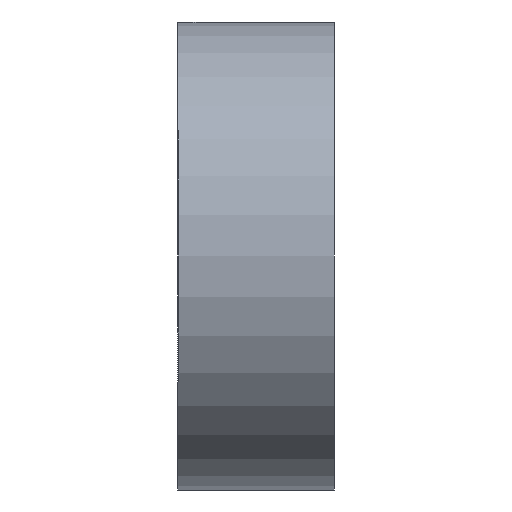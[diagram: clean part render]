
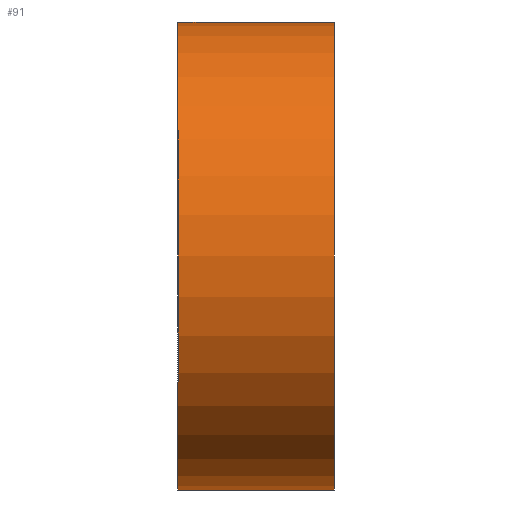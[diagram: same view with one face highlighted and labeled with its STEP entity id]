
A CAD part, front view. The second image highlights one B-rep face of the part: STEP entity #91.
In plain terms, the highlighted cylindrical face has radius 15 mm (diameter 30 mm), a partial arc.
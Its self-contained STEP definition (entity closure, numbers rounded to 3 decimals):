
#52=CARTESIAN_POINT('Axis2P3D Location',(5.,352.611,315.781)) ;
#57=CARTESIAN_POINT('Line Origine',(5.,352.611,330.781)) ;
#61=CARTESIAN_POINT('Vertex',(0.,352.611,330.781)) ;
#63=CARTESIAN_POINT('Vertex',(10.,352.611,330.781)) ;
#66=CARTESIAN_POINT('Axis2P3D Location',(0.,352.611,315.781)) ;
#70=CARTESIAN_POINT('Vertex',(0.,352.611,300.781)) ;
#73=CARTESIAN_POINT('Line Origine',(5.,352.611,300.781)) ;
#77=CARTESIAN_POINT('Vertex',(10.,352.611,300.781)) ;
#80=CARTESIAN_POINT('Axis2P3D Location',(10.,352.611,315.781)) ;
#53=DIRECTION('Axis2P3D Direction',(1.,0.,0.)) ;
#54=DIRECTION('Axis2P3D XDirection',(0.,0.,1.)) ;
#58=DIRECTION('Vector Direction',(1.,0.,0.)) ;
#67=DIRECTION('Axis2P3D Direction',(1.,0.,0.)) ;
#74=DIRECTION('Vector Direction',(1.,0.,0.)) ;
#81=DIRECTION('Axis2P3D Direction',(1.,0.,0.)) ;
#55=AXIS2_PLACEMENT_3D('Cylinder Axis2P3D',#52,#53,#54) ;
#68=AXIS2_PLACEMENT_3D('Circle Axis2P3D',#66,#67,$) ;
#82=AXIS2_PLACEMENT_3D('Circle Axis2P3D',#80,#81,$) ;
#86=ORIENTED_EDGE('',*,*,#65,.F.) ;
#87=ORIENTED_EDGE('',*,*,#72,.T.) ;
#88=ORIENTED_EDGE('',*,*,#79,.T.) ;
#89=ORIENTED_EDGE('',*,*,#84,.F.) ;
#59=VECTOR('Line Direction',#58,1.) ;
#75=VECTOR('Line Direction',#74,1.) ;
#91=ADVANCED_FACE('PartBody',(#90),#56,.T.) ;
#69=CIRCLE('generated circle',#68,15.) ;
#83=CIRCLE('generated circle',#82,15.) ;
#56=CYLINDRICAL_SURFACE('generated cylinder',#55,15.) ;
#65=EDGE_CURVE('',#62,#64,#60,.T.) ;
#72=EDGE_CURVE('',#62,#71,#69,.T.) ;
#79=EDGE_CURVE('',#71,#78,#76,.T.) ;
#84=EDGE_CURVE('',#64,#78,#83,.T.) ;
#85=EDGE_LOOP('',(#86,#87,#88,#89)) ;
#90=FACE_OUTER_BOUND('',#85,.T.) ;
#60=LINE('Line',#57,#59) ;
#76=LINE('Line',#73,#75) ;
#62=VERTEX_POINT('',#61) ;
#64=VERTEX_POINT('',#63) ;
#71=VERTEX_POINT('',#70) ;
#78=VERTEX_POINT('',#77) ;
